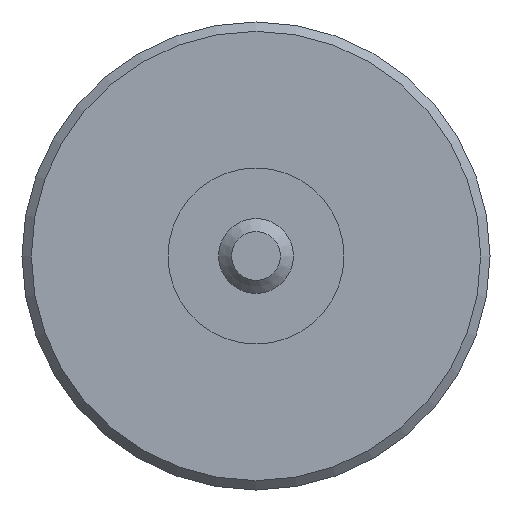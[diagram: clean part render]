
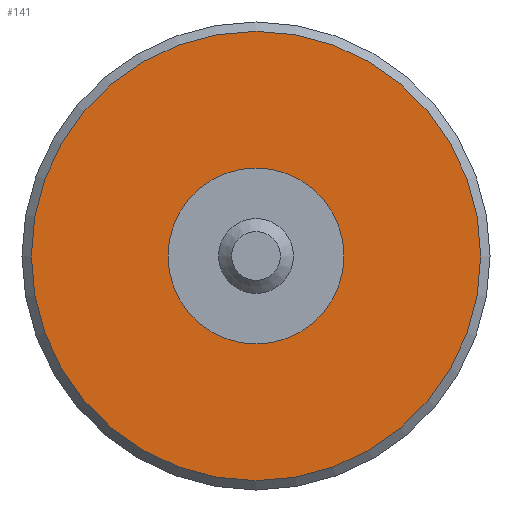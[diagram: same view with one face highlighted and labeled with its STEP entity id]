
A CAD part, left-side view. The second image highlights one B-rep face of the part: STEP entity #141.
In plain terms, the highlighted planar face has unit normal (-1, 0, 0).
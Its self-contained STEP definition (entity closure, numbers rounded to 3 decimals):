
#14=PLANE($,#161);
#26=FACE_BOUND($,#52,.T.);
#27=FACE_BOUND($,#53,.T.);
#52=EDGE_LOOP($,(#107));
#53=EDGE_LOOP($,(#108));
#69=CIRCLE($,#159,1.194);
#70=CIRCLE($,#162,3.048);
#80=VERTEX_POINT($,#235);
#81=VERTEX_POINT($,#239);
#91=EDGE_CURVE($,#80,#80,#69,.T.);
#92=EDGE_CURVE($,#81,#81,#70,.T.);
#107=ORIENTED_EDGE($,*,*,#91,.T.);
#108=ORIENTED_EDGE($,*,*,#92,.F.);
#141=ADVANCED_FACE($,(#26,#27),#14,.T.);
#159=AXIS2_PLACEMENT_3D($,#236,#192,#193);
#161=AXIS2_PLACEMENT_3D($,#238,#196,#197);
#162=AXIS2_PLACEMENT_3D($,#240,#198,#199);
#192=DIRECTION('center_axis',(1.,0.,0.));
#193=DIRECTION('ref_axis',(0.,1.,0.));
#196=DIRECTION('center_axis',(-1.,0.,0.));
#197=DIRECTION('ref_axis',(0.,0.,1.));
#198=DIRECTION('center_axis',(1.,0.,0.));
#199=DIRECTION('ref_axis',(0.,-1.,0.));
#235=CARTESIAN_POINT('',(-4.005,7.143,0.));
#236=CARTESIAN_POINT('Origin',(-4.005,5.949,0.));
#238=CARTESIAN_POINT('Origin',(-4.005,7.536,0.));
#239=CARTESIAN_POINT('',(-4.005,8.997,0.));
#240=CARTESIAN_POINT('Origin',(-4.005,5.949,0.));
